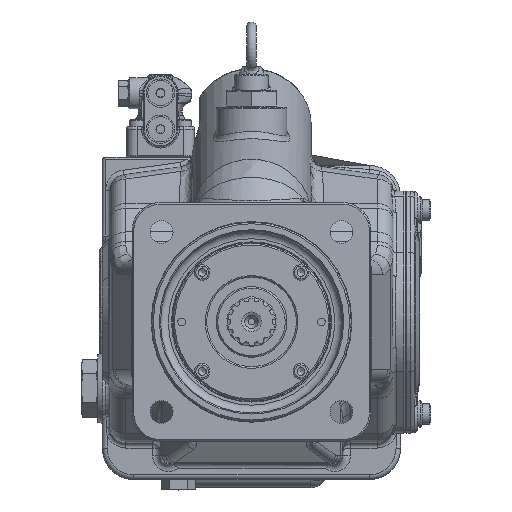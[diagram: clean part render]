
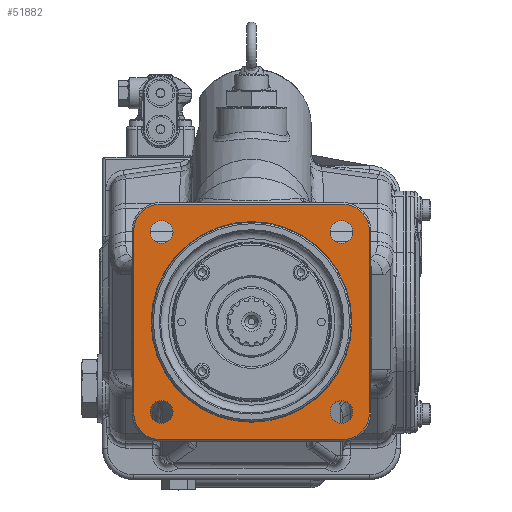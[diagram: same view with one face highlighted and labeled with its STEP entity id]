
A CAD part, top view. The second image highlights one B-rep face of the part: STEP entity #51882.
In plain terms, the highlighted planar face has unit normal (0, 0, 1).
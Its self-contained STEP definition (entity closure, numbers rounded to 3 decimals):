
#3363=FACE_BOUND('',#10405,.T.);
#3364=FACE_BOUND('',#10406,.T.);
#3365=FACE_BOUND('',#10407,.T.);
#3366=FACE_BOUND('',#10408,.T.);
#3367=FACE_BOUND('',#10409,.T.);
#4496=PLANE('',#56101);
#7122=FACE_OUTER_BOUND('',#10404,.T.);
#10404=EDGE_LOOP('',(#45405,#45406,#45407,#45408,#45409,#45410,#45411,#45412));
#10405=EDGE_LOOP('',(#45413));
#10406=EDGE_LOOP('',(#45414));
#10407=EDGE_LOOP('',(#45415));
#10408=EDGE_LOOP('',(#45416));
#10409=EDGE_LOOP('',(#45417));
#14333=LINE('',#99792,#18283);
#14334=LINE('',#99796,#18284);
#14335=LINE('',#99800,#18285);
#14336=LINE('',#99804,#18286);
#18283=VECTOR('',#67264,10.);
#18284=VECTOR('',#67267,10.);
#18285=VECTOR('',#67270,10.);
#18286=VECTOR('',#67273,10.);
#20601=CIRCLE('',#56094,63.9);
#20607=CIRCLE('',#56102,17.);
#20608=CIRCLE('',#56103,17.);
#20609=CIRCLE('',#56104,17.);
#20610=CIRCLE('',#56105,17.);
#20611=CIRCLE('',#56106,7.25);
#20612=CIRCLE('',#56107,7.25);
#20613=CIRCLE('',#56108,7.25);
#20614=CIRCLE('',#56109,7.25);
#24873=VERTEX_POINT('',#99776);
#24878=VERTEX_POINT('',#99790);
#24879=VERTEX_POINT('',#99791);
#24880=VERTEX_POINT('',#99793);
#24881=VERTEX_POINT('',#99795);
#24882=VERTEX_POINT('',#99797);
#24883=VERTEX_POINT('',#99799);
#24884=VERTEX_POINT('',#99801);
#24885=VERTEX_POINT('',#99803);
#24886=VERTEX_POINT('',#99806);
#24887=VERTEX_POINT('',#99808);
#24888=VERTEX_POINT('',#99810);
#24889=VERTEX_POINT('',#99812);
#31871=EDGE_CURVE('',#24873,#24873,#20601,.T.);
#31878=EDGE_CURVE('',#24878,#24879,#14333,.T.);
#31879=EDGE_CURVE('',#24880,#24878,#20607,.T.);
#31880=EDGE_CURVE('',#24881,#24880,#14334,.T.);
#31881=EDGE_CURVE('',#24882,#24881,#20608,.T.);
#31882=EDGE_CURVE('',#24883,#24882,#14335,.T.);
#31883=EDGE_CURVE('',#24884,#24883,#20609,.T.);
#31884=EDGE_CURVE('',#24885,#24884,#14336,.T.);
#31885=EDGE_CURVE('',#24879,#24885,#20610,.T.);
#31886=EDGE_CURVE('',#24886,#24886,#20611,.T.);
#31887=EDGE_CURVE('',#24887,#24887,#20612,.T.);
#31888=EDGE_CURVE('',#24888,#24888,#20613,.T.);
#31889=EDGE_CURVE('',#24889,#24889,#20614,.T.);
#45405=ORIENTED_EDGE('',*,*,#31878,.F.);
#45406=ORIENTED_EDGE('',*,*,#31879,.F.);
#45407=ORIENTED_EDGE('',*,*,#31880,.F.);
#45408=ORIENTED_EDGE('',*,*,#31881,.F.);
#45409=ORIENTED_EDGE('',*,*,#31882,.F.);
#45410=ORIENTED_EDGE('',*,*,#31883,.F.);
#45411=ORIENTED_EDGE('',*,*,#31884,.F.);
#45412=ORIENTED_EDGE('',*,*,#31885,.F.);
#45413=ORIENTED_EDGE('',*,*,#31886,.T.);
#45414=ORIENTED_EDGE('',*,*,#31887,.T.);
#45415=ORIENTED_EDGE('',*,*,#31888,.T.);
#45416=ORIENTED_EDGE('',*,*,#31889,.T.);
#45417=ORIENTED_EDGE('',*,*,#31871,.F.);
#51882=ADVANCED_FACE('',(#7122,#3363,#3364,#3365,#3366,#3367),#4496,.F.);
#56094=AXIS2_PLACEMENT_3D('',#99777,#67247,#67248);
#56101=AXIS2_PLACEMENT_3D('',#99789,#67262,#67263);
#56102=AXIS2_PLACEMENT_3D('',#99794,#67265,#67266);
#56103=AXIS2_PLACEMENT_3D('',#99798,#67268,#67269);
#56104=AXIS2_PLACEMENT_3D('',#99802,#67271,#67272);
#56105=AXIS2_PLACEMENT_3D('',#99805,#67274,#67275);
#56106=AXIS2_PLACEMENT_3D('',#99807,#67276,#67277);
#56107=AXIS2_PLACEMENT_3D('',#99809,#67278,#67279);
#56108=AXIS2_PLACEMENT_3D('',#99811,#67280,#67281);
#56109=AXIS2_PLACEMENT_3D('',#99813,#67282,#67283);
#67247=DIRECTION('center_axis',(0.,0.,1.));
#67248=DIRECTION('ref_axis',(0.,-1.,0.));
#67262=DIRECTION('center_axis',(0.,0.,-1.));
#67263=DIRECTION('ref_axis',(0.,1.,0.));
#67264=DIRECTION('',(1.,0.,0.));
#67265=DIRECTION('center_axis',(0.,0.,-1.));
#67266=DIRECTION('ref_axis',(-1.,0.,0.));
#67267=DIRECTION('',(0.,1.,0.));
#67268=DIRECTION('center_axis',(0.,0.,-1.));
#67269=DIRECTION('ref_axis',(0.,-1.,0.));
#67270=DIRECTION('',(-1.,0.,0.));
#67271=DIRECTION('center_axis',(0.,0.,-1.));
#67272=DIRECTION('ref_axis',(0.,-1.,0.));
#67273=DIRECTION('',(0.,-1.,0.));
#67274=DIRECTION('center_axis',(0.,0.,-1.));
#67275=DIRECTION('ref_axis',(1.,0.,0.));
#67276=DIRECTION('center_axis',(0.,0.,-1.));
#67277=DIRECTION('ref_axis',(1.,0.,0.));
#67278=DIRECTION('center_axis',(0.,0.,-1.));
#67279=DIRECTION('ref_axis',(1.,0.,0.));
#67280=DIRECTION('center_axis',(0.,0.,-1.));
#67281=DIRECTION('ref_axis',(1.,0.,0.));
#67282=DIRECTION('center_axis',(0.,0.,-1.));
#67283=DIRECTION('ref_axis',(1.,0.,0.));
#99776=CARTESIAN_POINT('',(-0.146,-54.543,145.75));
#99777=CARTESIAN_POINT('Origin',(-0.146,-118.443,145.75));
#99789=CARTESIAN_POINT('Origin',(-0.146,5.4,145.75));
#99790=CARTESIAN_POINT('',(-58.146,-43.443,145.75));
#99791=CARTESIAN_POINT('',(57.854,-43.443,145.75));
#99792=CARTESIAN_POINT('',(-9.279,-43.443,145.75));
#99793=CARTESIAN_POINT('',(-75.146,-60.443,145.75));
#99794=CARTESIAN_POINT('Origin',(-58.146,-60.443,145.75));
#99795=CARTESIAN_POINT('',(-75.146,-176.443,145.75));
#99796=CARTESIAN_POINT('',(-75.146,-42.022,145.75));
#99797=CARTESIAN_POINT('',(-58.146,-193.443,145.75));
#99798=CARTESIAN_POINT('Origin',(-58.146,-176.443,145.75));
#99799=CARTESIAN_POINT('',(57.854,-193.443,145.75));
#99800=CARTESIAN_POINT('',(-23.779,-193.443,145.75));
#99801=CARTESIAN_POINT('',(74.854,-176.443,145.75));
#99802=CARTESIAN_POINT('Origin',(57.854,-176.443,145.75));
#99803=CARTESIAN_POINT('',(74.854,-60.443,145.75));
#99804=CARTESIAN_POINT('',(74.854,-42.022,145.75));
#99805=CARTESIAN_POINT('Origin',(57.854,-60.443,145.75));
#99806=CARTESIAN_POINT('',(-64.646,-175.693,145.75));
#99807=CARTESIAN_POINT('Origin',(-57.396,-175.693,145.75));
#99808=CARTESIAN_POINT('',(49.854,-175.693,145.75));
#99809=CARTESIAN_POINT('Origin',(57.104,-175.693,145.75));
#99810=CARTESIAN_POINT('',(-64.646,-61.193,145.75));
#99811=CARTESIAN_POINT('Origin',(-57.396,-61.193,145.75));
#99812=CARTESIAN_POINT('',(49.854,-61.193,145.75));
#99813=CARTESIAN_POINT('Origin',(57.104,-61.193,145.75));
